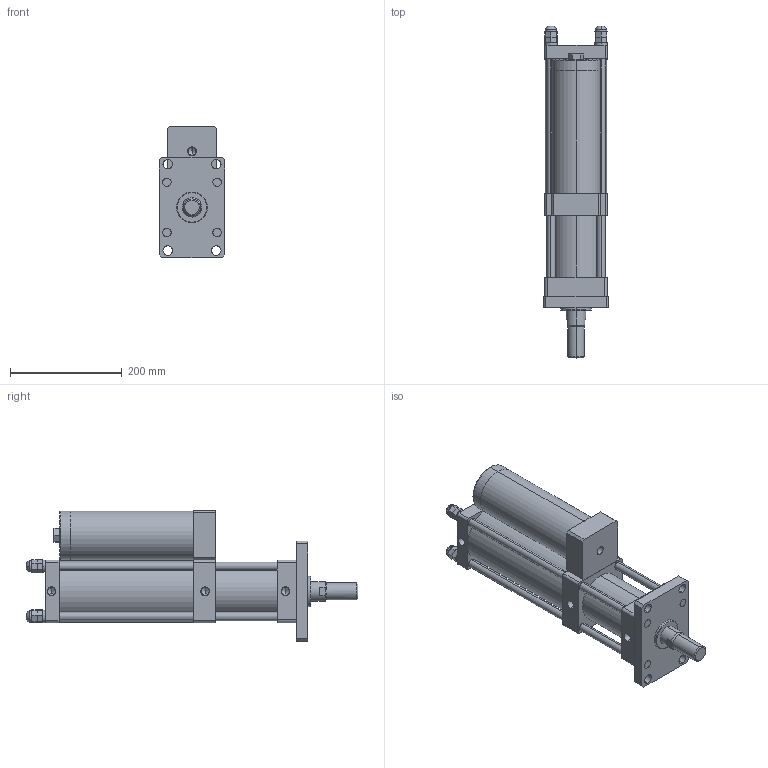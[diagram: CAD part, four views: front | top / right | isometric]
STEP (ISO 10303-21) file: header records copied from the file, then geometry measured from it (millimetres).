
FILE_DESCRIPTION (( 'STEP AP203' ), '1' );
FILE_NAME ('MPT-80-50-15-5T.STEP', '2016-03-11T01:25:37', ( 'WIN' ), ( '' ), 'SwSTEP 2.0', 'SolidWorks 2014', '' );
FILE_SCHEMA (( 'CONFIG_CONTROL_DESIGN' ));
Length unit declared in the file: millimetre
Products named in the file (1): MPT-80-50-15-5T
Bounding box: 118 x 595.13 x 235 mm (x, y, z)
Volume: 5541470.3 mm3; surface area: 622772.3 mm2
Topology: 20 solids, 20 shells, 390 faces, 954 edges, 554 vertices
Faces by surface type: plane 183, cylinder 84, torus 48, bspline 48, cone 27
Entity records: 12526 total; most frequent: CARTESIAN_POINT 3675, DIRECTION 1859, ORIENTED_EDGE 1776, EDGE_CURVE 888, AXIS2_PLACEMENT_3D 682, VERTEX_POINT 554, VECTOR 495, LINE 495
